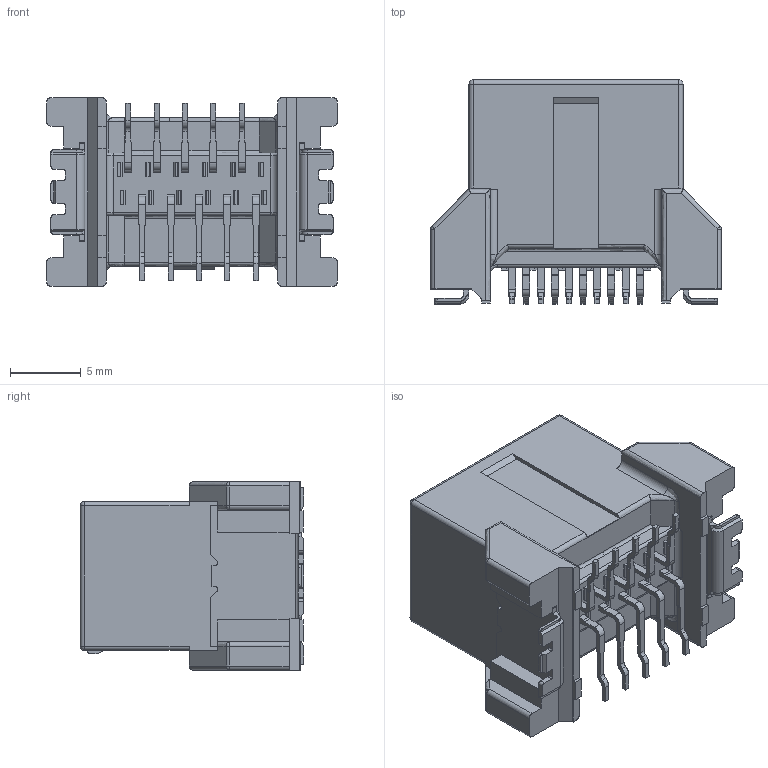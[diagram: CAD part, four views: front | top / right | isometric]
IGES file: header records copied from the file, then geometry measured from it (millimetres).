
Start section: SolidWorks IGES file using analytic representation for surfaces
Global section: file name: C:\Users\08803\Desktop\PDM\ISH全シリーズモデル(STEP)2017.2.6時点\垂直\10P\ISH 10P MALE CONNECTOR VERTICAL.IGS; native system: SolidWorks 2017; preprocessor: SolidWorks 2017; author: 08803; date: 180821.192257; units: millimetre
Bounding box: 20.5 x 15.8 x 13.3 mm (x, y, z)
Surface area: 1534.3 mm2 (no closed solid volume)
Topology: 0 solids, 0 shells, 614 faces, 4222 edges, 4208 vertices
Faces by surface type: bspline 402, revolution 212
